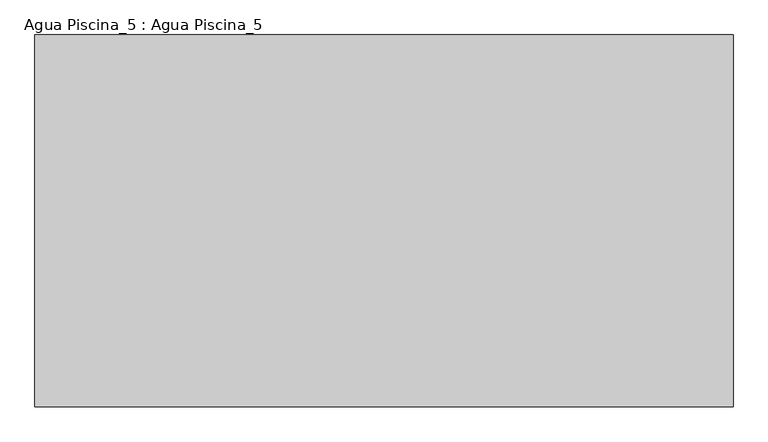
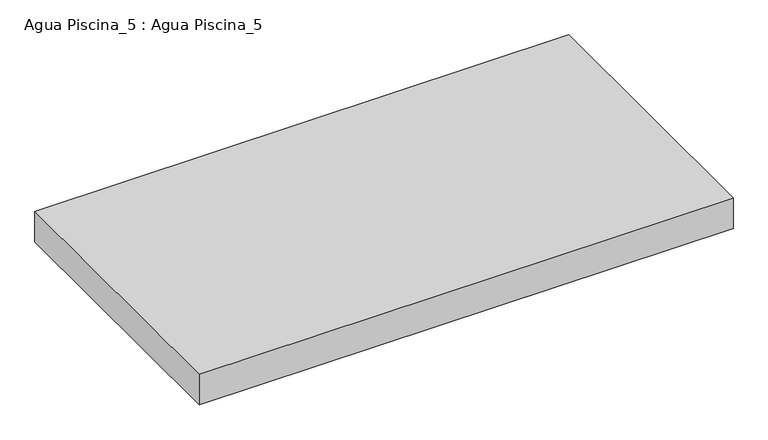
"""IFC4 building model written with IfcOpenShell, lengths in millimetres: proxy geometry, Agua Piscina_5 : Agua Piscina_5."""

from ifc_helpers import new_model, si_unit, frame, origin, place, context, project, spatial, polyline, outline, extrude, source, transform, mapped, element, save


def agua_piscina_5_agua_piscina_5_e3b453ef(model_context):
    return source(origin(), model_context, "Body", "SweptSolid", [
        extrude(outline(polyline([(-4634.4623405, -41325.8891101), (-4634.4623405, -45885.8864996), (-13194.4608427, -45885.8864996), (-13194.4608427, -41325.8891101), (-4634.4623405, -41325.8891101)])), frame((0.0, 0.0, 13513.3232298), z_axis=(0.0, 0.0, 1.0), x_axis=(1.0, 0.0, 0.0)), (0.0, 0.0, 1.0), 516.6767702),
    ])


if __name__ == "__main__":
    model = new_model("IFC4")
    model_context = context("Model", 3, world=origin())
    ifc_project = project(units=[si_unit("LENGTHUNIT", "METRE", prefix="MILLI")], contexts=[model_context])
    site = spatial("IfcSite", under=ifc_project)
    building = spatial("IfcBuilding", under=site)
    placement = place(None, origin())
    agua_piscina_5_agua_piscina_5_shape = agua_piscina_5_agua_piscina_5_e3b453ef(model_context)
    element("IfcBuildingElementProxy", 1, Name="Agua Piscina_5 : Agua Piscina_5", ObjectType="Agua Piscina_5 : Agua Piscina_5", at=placement, inside=building, context=model_context, shape_type="MappedRepresentation", body=[
        mapped(agua_piscina_5_agua_piscina_5_shape, transform((0.0, 0.0, 0.0), x_axis=(1.0, 0.0, 0.0), y_axis=(0.0, 1.0, 0.0), z_axis=(0.0, 0.0, 1.0))),
    ])
    save(model, "model.ifc")
